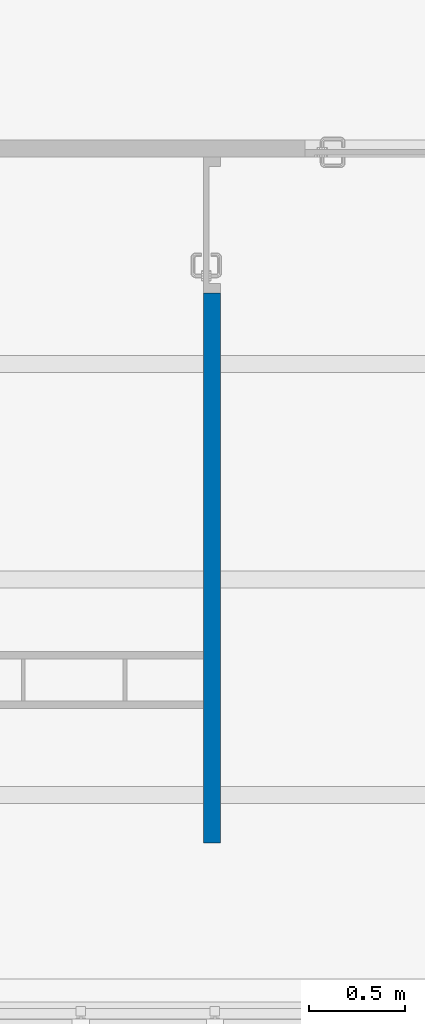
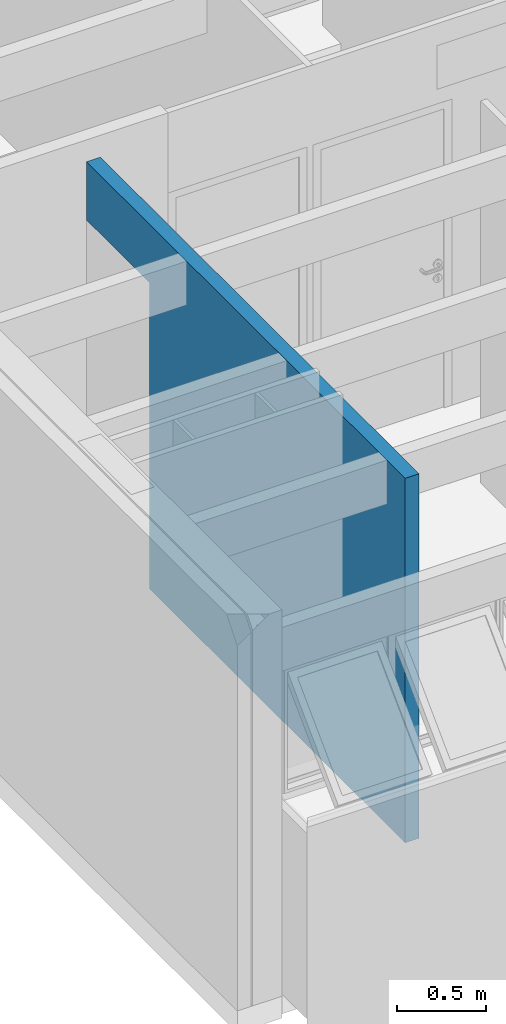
# One storey, part 32 of 40: 1 wall, 1 opening.
"""IFC4 building model written with IfcOpenShell, lengths in millimetres."""

import ifcopenshell
import ifcopenshell.guid

model = None  # the IFC model being written
_history = None  # IfcOwnerHistory: only IFC2X3 demands one
_inside = {}  # id of a spatial element -> (the spatial element, [elements in it])
_under = {}  # id of a project, library or spatial element -> (it, [spatial elements below it])
_declared = {}  # id of a project -> (the project, [libraries it declares])
_typed = {}  # id of a type object -> (the type object, [elements of that type])
_made_of = {}  # id of a material, layer set ... -> (it, [elements and type objects made of it])


def new_model(schema):
    """Start an empty IFC model of exactly this schema.

    Asked for "IFC4X3", IfcOpenShell would pick the latest addendum, in which some entities
    have other attributes; the version numbers below select the first issue.
    IFC2X3 requires an IfcOwnerHistory on every rooted entity: one is made here for all.
    """
    global model, _history
    if schema == "IFC4X3":
        model = ifcopenshell.file(schema_version=(4, 3, 0, 0))
    else:
        model = ifcopenshell.file(schema=schema)
    _inside.clear()
    _under.clear()
    _declared.clear()
    _typed.clear()
    _made_of.clear()
    _history = None
    if model.schema == "IFC2X3":
        org = make("IfcOrganization", Name="unknown")
        user = make(
            "IfcPersonAndOrganization",
            ThePerson=make("IfcPerson", FamilyName="unknown"),
            TheOrganization=org,
        )
        app = make(
            "IfcApplication",
            ApplicationDeveloper=org,
            Version="unknown",
            ApplicationFullName="unknown",
            ApplicationIdentifier="unknown",
        )
        _history = make(
            "IfcOwnerHistory",
            OwningUser=user,
            OwningApplication=app,
            ChangeAction="ADDED",
            CreationDate=0,
        )
    return model


def make(cls, **values):
    """One entity of the class cls with the attributes given. An attribute that is None is left unset."""
    return model.create_entity(
        cls, **{name: value for name, value in values.items() if value is not None}
    )


def entity(cls, *values):
    """Any entity or typed value of the class cls, its attributes in the order of the schema. None: left unset."""
    e = model.create_entity(cls)
    for i, value in enumerate(values):
        if value is not None:
            e[i] = value
    return e


def rooted(cls, **values):
    """An entity with a GlobalId (a new one), such as an element, a storey or a relation."""
    return make(cls, GlobalId=ifcopenshell.guid.new(), OwnerHistory=_history, **values)


def si_unit(unit_type, name, prefix=None):
    """IfcSIUnit, for example si_unit("LENGTHUNIT", "METRE", prefix="MILLI")."""
    return make("IfcSIUnit", UnitType=unit_type, Prefix=prefix, Name=name)


def converted_unit(unit_type, name, factor, base, dimensions=None, offset=None):
    """IfcConversionBasedUnit, such as the inch: factor (a typed value) times the base unit."""
    return make(
        "IfcConversionBasedUnit"
        if offset is None
        else "IfcConversionBasedUnitWithOffset",
        ConversionOffset=offset,
        Dimensions=None
        if dimensions is None
        else entity("IfcDimensionalExponents", *dimensions),
        UnitType=unit_type,
        Name=name,
        ConversionFactor=make(
            "IfcMeasureWithUnit", ValueComponent=factor, UnitComponent=base
        ),
    )


def derived_unit(unit_type, elements):
    """IfcDerivedUnit: a product of units, each with its exponent."""
    return make(
        "IfcDerivedUnit",
        Elements=[
            make("IfcDerivedUnitElement", Unit=unit, Exponent=power)
            for unit, power in elements
        ],
        UnitType=unit_type,
    )


def assignment(units):
    """IfcUnitAssignment: the units of a project."""
    return None if units is None else make("IfcUnitAssignment", Units=units)


def point(xyz):
    """IfcCartesianPoint."""
    return None if xyz is None else make("IfcCartesianPoint", Coordinates=xyz)


def direction(xyz):
    """IfcDirection."""
    return None if xyz is None else make("IfcDirection", DirectionRatios=xyz)


def frame(location, z_axis=None, x_axis=None):
    """IfcAxis2Placement3D, a coordinate frame: its origin and axes. An axis left out is left unset."""
    return make(
        "IfcAxis2Placement3D",
        Location=point(location),
        Axis=direction(z_axis),
        RefDirection=direction(x_axis),
    )


def frame_2d(location, x_axis=None):
    """IfcAxis2Placement2D, a coordinate frame in the plane: its origin and x axis."""
    return make(
        "IfcAxis2Placement2D", Location=point(location), RefDirection=direction(x_axis)
    )


def origin_with_axes():
    """The frame at (0, 0, 0) with the z axis (0, 0, 1) and the x axis (1, 0, 0) written out."""
    return frame((0.0, 0.0, 0.0), z_axis=(0.0, 0.0, 1.0), x_axis=(1.0, 0.0, 0.0))


def origin_2d_with_axis():
    """The frame at (0, 0) in the plane with the x axis (1, 0) written out."""
    return frame_2d((0.0, 0.0), x_axis=(1.0, 0.0))


def place(relative_to, where):
    """IfcLocalPlacement: puts the frame where relative to a parent placement (None: the world)."""
    return make(
        "IfcLocalPlacement", PlacementRelTo=relative_to, RelativePlacement=where
    )


def context(
    kind, dimensions, precision=None, world=None, true_north=None, identifier=None
):
    """IfcGeometricRepresentationContext, for example the 3D "Model" context."""
    return make(
        "IfcGeometricRepresentationContext",
        ContextIdentifier=identifier,
        ContextType=kind,
        CoordinateSpaceDimension=dimensions,
        Precision=precision,
        WorldCoordinateSystem=world,
        TrueNorth=true_north,
    )


def subcontext(parent, identifier, kind, view, scale=None):
    """IfcGeometricRepresentationSubContext, for example "Body" below "Model"."""
    return make(
        "IfcGeometricRepresentationSubContext",
        ContextIdentifier=identifier,
        ContextType=kind,
        ParentContext=parent,
        TargetScale=scale,
        TargetView=view,
    )


def project(units=None, contexts=None):
    """IfcProject with its units and contexts."""
    return rooted(
        "IfcProject",
        Name="project",
        RepresentationContexts=contexts,
        UnitsInContext=assignment(units),
    )


def spatial(cls, under=None, at=None, **own):
    """A site, building, storey or space (cls), placed at a placement, below another one or the project."""
    s = rooted(cls, ObjectPlacement=at, **own)
    if under is not None:
        _under.setdefault(under.id(), (under, []))[1].append(s)
    return s


def point_list(points):
    """IfcCartesianPointList2D or 3D."""
    cls = (
        "IfcCartesianPointList2D" if len(points[0]) == 2 else "IfcCartesianPointList3D"
    )
    return make(cls, CoordList=points)


def line(*indices):
    """IfcLineIndex: a straight run through numbered points of an indexed curve."""
    return model.create_entity("IfcLineIndex", indices)


def indexed_curve(points, segments=None, self_intersect=None):
    """IfcIndexedPolyCurve: lines and arcs through numbered points (the first is 1)."""
    return make(
        "IfcIndexedPolyCurve",
        Points=point_list(points),
        Segments=segments,
        SelfIntersect=self_intersect,
    )


def profile(cls, at=None, kind="AREA", **sizes):
    """A parametric profile (cls). Its sizes go by their IFC names, for example OverallWidth=200.0."""
    return make(cls, ProfileType=kind, Position=at, **sizes)


def rectangle(**sizes):
    """IfcRectangleProfileDef."""
    return profile("IfcRectangleProfileDef", **sizes)


def outline(outer, holes=None, kind="AREA"):
    """IfcArbitraryClosedProfileDef: a profile drawn as a closed curve; with holes, ...WithVoids."""
    if holes is None:
        return make("IfcArbitraryClosedProfileDef", ProfileType=kind, OuterCurve=outer)
    return make(
        "IfcArbitraryProfileDefWithVoids",
        ProfileType=kind,
        OuterCurve=outer,
        InnerCurves=holes,
    )


def extrude(swept, where, along, depth):
    """IfcExtrudedAreaSolid: the profile swept, set in the frame where, extruded along a direction by depth."""
    return make(
        "IfcExtrudedAreaSolid",
        SweptArea=swept,
        Position=where,
        ExtrudedDirection=direction(along),
        Depth=depth,
    )


def shape(context_of_items, identifier, shape_type, items):
    """IfcShapeRepresentation: the items that make up one representation, for example the "Body"."""
    return make(
        "IfcShapeRepresentation",
        ContextOfItems=context_of_items,
        RepresentationIdentifier=identifier,
        RepresentationType=shape_type,
        Items=items,
    )


def material(Name=None, Category=None):
    """IfcMaterial."""
    return make("IfcMaterial", Name=Name, Category=Category)


def layer(
    of_material, thickness, ventilated=None, Name=None, Category=None, Priority=None
):
    """IfcMaterialLayer: one layer of a wall or slab, of a material (None: an air gap)."""
    return make(
        "IfcMaterialLayer",
        Material=of_material,
        LayerThickness=thickness,
        IsVentilated=ventilated,
        Name=Name,
        Category=Category,
        Priority=Priority,
    )


def layer_set(layers, Name=None):
    """IfcMaterialLayerSet."""
    return make("IfcMaterialLayerSet", MaterialLayers=layers, LayerSetName=Name)


def layer_usage(for_layer_set, set_direction, sense, offset, extent=None):
    """IfcMaterialLayerSetUsage: how a layer set lies in its element."""
    return make(
        "IfcMaterialLayerSetUsage",
        ForLayerSet=for_layer_set,
        LayerSetDirection=set_direction,
        DirectionSense=sense,
        OffsetFromReferenceLine=offset,
        ReferenceExtent=extent,
    )


def made_of(thing, what):
    """Note that an element or type object is made of a material, layer set ...; save() writes the relation."""
    if what is not None:
        _made_of.setdefault(what.id(), (what, []))[1].append(thing)
    return thing


def type_object(cls, material=None, **own):
    """A type object (cls), such as IfcWallType, which elements share."""
    return made_of(rooted(cls, **own), material)


def element(
    cls,
    number,
    at=None,
    inside=None,
    cuts=None,
    type_object=None,
    material=None,
    context=None,
    identifier="Body",
    shape_type=None,
    held_by="IfcProductDefinitionShape",
    body=None,
    shapes=None,
    **own,
):
    """One element of the class cls, such as IfcWall. Its Tag is "e" and its number.

    at: its placement. inside: the storey or other place that contains it. cuts: it is an
    opening in that element (IfcRelVoidsElement). A single representation is given by context,
    identifier, shape_type and body (its items); several are given by shapes. held_by: the class
    of the entity that holds the representations. save() writes the other relations.
    """
    e = rooted(cls, Tag="e%d" % number, ObjectPlacement=at, **own)
    if body is not None:
        shapes = [shape(context, identifier, shape_type, body)]
    if shapes is not None:
        e.Representation = make(held_by, Representations=shapes)
    if inside is not None:
        _inside.setdefault(inside.id(), (inside, []))[1].append(e)
    if cuts is not None:
        rooted(
            "IfcRelVoidsElement", RelatingBuildingElement=cuts, RelatedOpeningElement=e
        )
    if type_object is not None:
        _typed.setdefault(type_object.id(), (type_object, []))[1].append(e)
    return made_of(e, material)


def aggregate(whole, parts):
    """IfcRelAggregates: a whole, such as a stair, and the parts it consists of."""
    return rooted("IfcRelAggregates", RelatingObject=whole, RelatedObjects=parts)


def save(model, path):
    """Write the relations noted so far, then the file.

    IfcRelAggregates (storeys below a building ...), IfcRelContainedInSpatialStructure (elements
    in a storey), IfcRelDefinesByType, IfcRelAssociatesMaterial and IfcRelDeclares: one each for
    every whole, place, type object, material and project.
    """
    for whole, parts in _under.values():
        aggregate(whole, parts)
    for where, things in _inside.values():
        rooted(
            "IfcRelContainedInSpatialStructure",
            RelatedElements=things,
            RelatingStructure=where,
        )
    for kind, things in _typed.values():
        rooted("IfcRelDefinesByType", RelatedObjects=things, RelatingType=kind)
    for what, things in _made_of.values():
        rooted("IfcRelAssociatesMaterial", RelatedObjects=things, RelatingMaterial=what)
    for by, libraries in _declared.values():
        rooted("IfcRelDeclares", RelatingContext=by, RelatedDefinitions=libraries)
    model.write(path)


model = new_model("IFC4")

# Units and contexts
model_context = context("Model", 3, precision=0.01, world=origin_with_axes(), true_north=direction((0.0, 1.0)))
body_context = subcontext(model_context, "Body", "Model", "MODEL_VIEW")
ifc_project = project(units=[si_unit("LENGTHUNIT", "METRE", prefix="MILLI"), si_unit("AREAUNIT", "SQUARE_METRE"), si_unit("VOLUMEUNIT", "CUBIC_METRE"), converted_unit("PLANEANGLEUNIT", "DEGREE", entity("IfcPlaneAngleMeasure", 0.0174532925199), si_unit("PLANEANGLEUNIT", "RADIAN"), dimensions=[0, 0, 0, 0, 0, 0, 0]), converted_unit("TIMEUNIT", "Year", entity("IfcTimeMeasure", 31556926.0), si_unit("TIMEUNIT", "SECOND"), dimensions=[0, 0, 1, 0, 0, 0, 0]), si_unit("MASSUNIT", "GRAM", prefix="KILO"), si_unit("THERMODYNAMICTEMPERATUREUNIT", "DEGREE_CELSIUS"), si_unit("LUMINOUSINTENSITYUNIT", "LUMEN"), si_unit("ENERGYUNIT", "JOULE", prefix="MEGA"), derived_unit("THERMALCONDUCTANCEUNIT", [(si_unit("POWERUNIT", "WATT"), 1), (si_unit("LENGTHUNIT", "METRE"), -1), (si_unit("THERMODYNAMICTEMPERATUREUNIT", "KELVIN"), -1)]), derived_unit("SPECIFICHEATCAPACITYUNIT", [(si_unit("ENERGYUNIT", "JOULE"), 1), (si_unit("MASSUNIT", "GRAM", prefix="KILO"), -1), (si_unit("THERMODYNAMICTEMPERATUREUNIT", "KELVIN"), -1)]), derived_unit("MASSDENSITYUNIT", [(si_unit("MASSUNIT", "GRAM", prefix="KILO"), 1), (si_unit("VOLUMEUNIT", "CUBIC_METRE"), -1)])], contexts=[model_context])

# Site, building, storey
site_placement = place(None, origin_with_axes())
site = spatial("IfcSite", under=ifc_project, at=site_placement, Name="Local", CompositionType="ELEMENT")
building_placement = place(site_placement, origin_with_axes())
building = spatial("IfcBuilding", under=site, at=building_placement, Name="Construção", CompositionType="ELEMENT")
storey_placement = place(building_placement, frame((0.0, 0.0, 5300.0), z_axis=(0.0, 0.0, 1.0), x_axis=(1.0, 0.0, 0.0)))
storey = spatial("IfcBuildingStorey", under=building, at=storey_placement, Name="Terceiro Pavimento", CompositionType="ELEMENT", Elevation=5300.0)

# Wall, opening
ifc_material = material(Name="GENÉRICO - VEDAÇÃO EXTERNA")
ifc_layer = layer(ifc_material, 90.0, ventilated="UNKNOWN", Name="GENÉRICO - VEDAÇÃO EXTERNA")
ifc_layer_set = layer_set([ifc_layer], Name="GENÉRICO - VEDAÇÃO EXTERNA 90")
ifc_layer_usage = layer_usage(ifc_layer_set, "AXIS2", "POSITIVE", 0.0)
wall_type = type_object("IfcWallType", Name="GENÉRICO - VEDAÇÃO EXTERNA 90", PredefinedType="NOTDEFINED")
wall_placement = place(storey_placement, frame((1730.0, 18814.7804333, 0.0), z_axis=(0.0, 0.0, 1.0), x_axis=(0.0, 1.0, 0.0)))
wall = element("IfcWall", 1, at=wall_placement, inside=storey, type_object=wall_type, material=ifc_layer_usage, Name="APTO11-PAREDE-012", PredefinedType="NOTDEFINED", context=body_context, shape_type="SweptSolid", body=[
    extrude(outline(indexed_curve([(0.0, 0.0), (3580.0, 0.0), (3580.0, 90.0), (0.0, 90.0)], segments=[line(1, 2, 3, 4, 1)])), origin_with_axes(), (0.0, 0.0, 1.0), 2500.0),
])
opening_placement = place(wall_placement, frame((3225.0, 0.0, 0.0), z_axis=(0.0, 0.0, 1.0), x_axis=(1.0, 0.0, 0.0)))
element("IfcOpeningElement", 2, at=opening_placement, cuts=wall, Name="APTO11-PORTA-003", context=body_context, shape_type="SweptSolid", body=[
    extrude(rectangle(XDim=710.0, YDim=2100.0, at=origin_2d_with_axis()), frame((0.0, 90.0, 1050.0), z_axis=(0.0, -1.0, 0.0), x_axis=(1.0, 0.0, 0.0)), (0.0, 0.0, 1.0), 270.0),
])

save(model, "model.ifc")
